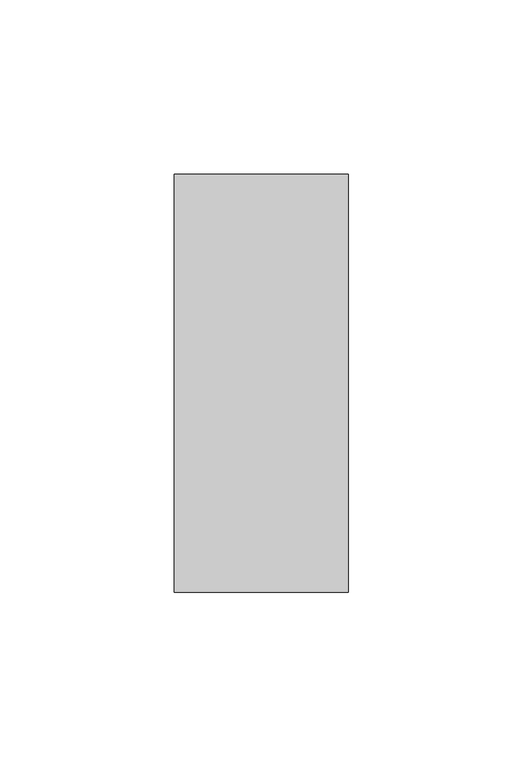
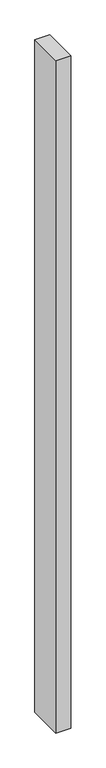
"""IFC4 building model written with IfcOpenShell, lengths in millimetres: member geometry, Прямоугольный импост : 50х120 мм."""

from ifc_helpers import new_model, si_unit, frame, origin, place, context, project, spatial, polyline, outline, extrude, source, transform, mapped, element, save


def member_371dc289(model_context):
    return source(origin(), model_context, "Body", "SweptSolid", [
        extrude(outline(polyline([(0.0, 60.0), (0.0, -60.0), (-50.0, -60.0), (-50.0, 60.0), (0.0, 60.0)])), frame((0.0, 0.0, -2370.0), z_axis=(0.0, 0.0, 1.0), x_axis=(1.0, 0.0, 0.0)), (0.0, 0.0, 1.0), 2370.0),
    ])


if __name__ == "__main__":
    model = new_model("IFC4")
    model_context = context("Model", 3, world=origin())
    ifc_project = project(units=[si_unit("LENGTHUNIT", "METRE", prefix="MILLI")], contexts=[model_context])
    site = spatial("IfcSite", under=ifc_project)
    building = spatial("IfcBuilding", under=site)
    placement = place(None, origin())
    member_shape = member_371dc289(model_context)
    element("IfcMember", 1, ObjectType="Прямоугольный импост : 50х120 мм", at=placement, inside=building, context=model_context, shape_type="MappedRepresentation", body=[
        mapped(member_shape, transform((0.0, 0.0, 0.0), x_axis=(1.0, 0.0, 0.0), y_axis=(0.0, 1.0, 0.0), z_axis=(0.0, 0.0, 1.0))),
    ])
    save(model, "model.ifc")
